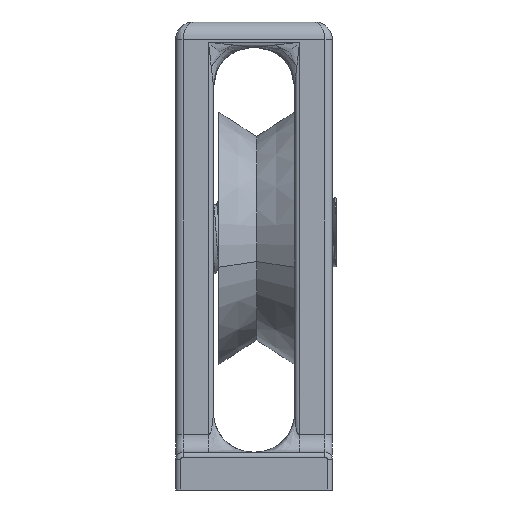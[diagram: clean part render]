
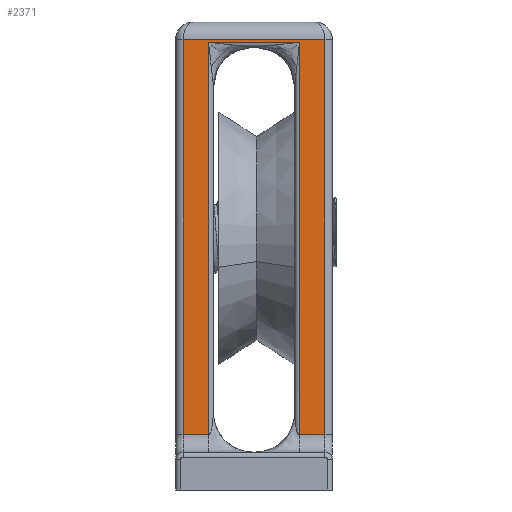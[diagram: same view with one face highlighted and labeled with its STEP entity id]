
A CAD part, front view. The second image highlights one B-rep face of the part: STEP entity #2371.
In plain terms, the highlighted planar face has unit normal (0, -1, 0).
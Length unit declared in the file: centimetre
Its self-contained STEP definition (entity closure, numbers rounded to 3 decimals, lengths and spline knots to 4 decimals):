
#62 = EDGE_CURVE ( 'NONE', #10805, #10497, #11949, .T. ) ;
#104 = LINE ( 'NONE', #8650, #13135 ) ;
#540 = VECTOR ( 'NONE', #2982, 100. ) ;
#688 = CARTESIAN_POINT ( 'NONE',  ( 0., 0.7094, 1.77 ) ) ;
#740 = EDGE_CURVE ( 'NONE', #2066, #7893, #7491, .T. ) ;
#772 = CARTESIAN_POINT ( 'NONE',  ( -0.16, 0.7094, 1.85 ) ) ;
#913 = AXIS2_PLACEMENT_3D ( 'NONE', #1751, #10248, #5860 ) ;
#1505 = CARTESIAN_POINT ( 'NONE',  ( -0.26, 0.7094, 0.22 ) ) ;
#1751 = CARTESIAN_POINT ( 'NONE',  ( 0., 0.7094, 1.75 ) ) ;
#1925 = EDGE_CURVE ( 'NONE', #9832, #2066, #104, .T. ) ;
#2054 = VECTOR ( 'NONE', #7339, 100. ) ;
#2066 = VERTEX_POINT ( 'NONE', #8994 ) ;
#2371 = ADVANCED_FACE ( 'NONE', ( #9120 ), #3742, .T. ) ;
#2568 = EDGE_CURVE ( 'NONE', #7893, #5215, #13164, .T. ) ;
#2982 = DIRECTION ( 'NONE',  ( 0., 0., 1. ) ) ;
#3595 = LINE ( 'NONE', #8970, #4396 ) ;
#3742 = PLANE ( 'NONE',  #913 ) ;
#3844 = VECTOR ( 'NONE', #11818, 100. ) ;
#4396 = VECTOR ( 'NONE', #6192, 100. ) ;
#4643 = ORIENTED_EDGE ( 'NONE', *, *, #9661, .T. ) ;
#4678 = EDGE_CURVE ( 'NONE', #10497, #10870, #5390, .T. ) ;
#4848 = EDGE_LOOP ( 'NONE', ( #7669, #7925, #6849, #4643, #9276, #8431, #6334, #9244 ) ) ;
#5215 = VERTEX_POINT ( 'NONE', #11647 ) ;
#5390 = LINE ( 'NONE', #10471, #2054 ) ;
#5860 = DIRECTION ( 'NONE',  ( 0., 0., -1. ) ) ;
#6192 = DIRECTION ( 'NONE',  ( 0., 0., 1. ) ) ;
#6334 = ORIENTED_EDGE ( 'NONE', *, *, #2568, .T. ) ;
#6373 = CARTESIAN_POINT ( 'NONE',  ( -0.16, 0.7094, 0.22 ) ) ;
#6379 = CARTESIAN_POINT ( 'NONE',  ( -0.72, 0.7094, 0.22 ) ) ;
#6702 = VECTOR ( 'NONE', #11224, 100. ) ;
#6849 = ORIENTED_EDGE ( 'NONE', *, *, #4678, .T. ) ;
#7284 = CARTESIAN_POINT ( 'NONE',  ( -0.16, 0.7094, 1.78 ) ) ;
#7339 = DIRECTION ( 'NONE',  ( 1., 0., 0. ) ) ;
#7491 = LINE ( 'NONE', #8249, #10737 ) ;
#7669 = ORIENTED_EDGE ( 'NONE', *, *, #9804, .T. ) ;
#7760 = CARTESIAN_POINT ( 'NONE',  ( -0.26, 0.7094, 1.75 ) ) ;
#7893 = VERTEX_POINT ( 'NONE', #6379 ) ;
#7925 = ORIENTED_EDGE ( 'NONE', *, *, #62, .T. ) ;
#8046 = DIRECTION ( 'NONE',  ( 1., 0., 0. ) ) ;
#8249 = CARTESIAN_POINT ( 'NONE',  ( -0.72, 0.7094, 1.75 ) ) ;
#8431 = ORIENTED_EDGE ( 'NONE', *, *, #740, .T. ) ;
#8650 = CARTESIAN_POINT ( 'NONE',  ( -0.72, 0.7094, 1.78 ) ) ;
#8970 = CARTESIAN_POINT ( 'NONE',  ( -0.62, 0.7094, 1.75 ) ) ;
#8994 = CARTESIAN_POINT ( 'NONE',  ( -0.72, 0.7094, 1.78 ) ) ;
#9120 = FACE_OUTER_BOUND ( 'NONE', #4848, .T. ) ;
#9244 = ORIENTED_EDGE ( 'NONE', *, *, #13015, .T. ) ;
#9276 = ORIENTED_EDGE ( 'NONE', *, *, #1925, .T. ) ;
#9661 = EDGE_CURVE ( 'NONE', #10870, #9832, #11292, .T. ) ;
#9804 = EDGE_CURVE ( 'NONE', #12690, #10805, #10554, .T. ) ;
#9832 = VERTEX_POINT ( 'NONE', #7284 ) ;
#10248 = DIRECTION ( 'NONE',  ( 0., -1., 0. ) ) ;
#10471 = CARTESIAN_POINT ( 'NONE',  ( -0.13, 0.7094, 0.22 ) ) ;
#10497 = VERTEX_POINT ( 'NONE', #1505 ) ;
#10554 = LINE ( 'NONE', #688, #11678 ) ;
#10737 = VECTOR ( 'NONE', #12514, 100. ) ;
#10805 = VERTEX_POINT ( 'NONE', #11726 ) ;
#10870 = VERTEX_POINT ( 'NONE', #6373 ) ;
#10945 = CARTESIAN_POINT ( 'NONE',  ( -0.62, 0.7094, 1.77 ) ) ;
#11224 = DIRECTION ( 'NONE',  ( 1., 0., 0. ) ) ;
#11292 = LINE ( 'NONE', #772, #540 ) ;
#11647 = CARTESIAN_POINT ( 'NONE',  ( -0.62, 0.7094, 0.22 ) ) ;
#11678 = VECTOR ( 'NONE', #8046, 100. ) ;
#11726 = CARTESIAN_POINT ( 'NONE',  ( -0.26, 0.7094, 1.77 ) ) ;
#11818 = DIRECTION ( 'NONE',  ( 0., 0., -1. ) ) ;
#11949 = LINE ( 'NONE', #7760, #3844 ) ;
#12129 = CARTESIAN_POINT ( 'NONE',  ( -0.6, 0.7094, 0.22 ) ) ;
#12514 = DIRECTION ( 'NONE',  ( 0., 0., -1. ) ) ;
#12690 = VERTEX_POINT ( 'NONE', #10945 ) ;
#12906 = DIRECTION ( 'NONE',  ( -1., 0., 0. ) ) ;
#13015 = EDGE_CURVE ( 'NONE', #5215, #12690, #3595, .T. ) ;
#13135 = VECTOR ( 'NONE', #12906, 100. ) ;
#13164 = LINE ( 'NONE', #12129, #6702 ) ;
